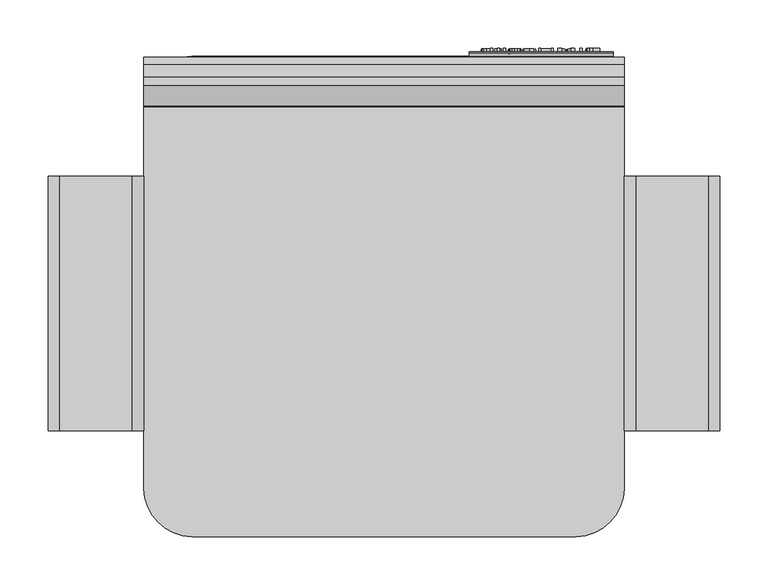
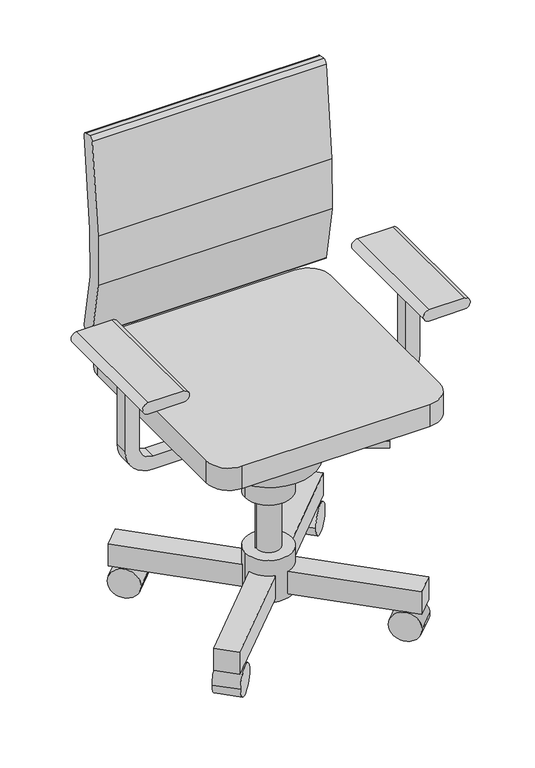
"""IFC4 building model written with IfcOpenShell, lengths in millimetres: furniture geometry, BIMHealth-Chair_Consultant-LOD2A-v1 : BIMHealth-Chair_Consultant-LOD2A-v1."""

from ifc_helpers import new_model, si_unit, point, frame, frame_2d, origin, place, context, project, spatial, polyline, circle_curve, trimmed, segment, composite_curve, outline, extrude, source, transform, mapped, element, save


def furniture_fb8e9059(model_context):
    return source(origin(), model_context, "Body", "SweptSolid", [
        extrude(outline(polyline([(436.6618506, -375.0897778), (242.5, -262.9903811), (257.5, -237.0096189), (451.6618506, -349.1090157), (436.6618506, -375.0897778)])), frame((0.0, 0.0, 380.0), z_axis=(0.0, 0.0, 1.0), x_axis=(1.0, 0.0, 0.0)), (0.0, 0.0, 1.0), 15.0),
        extrude(outline(composite_curve([segment(trimmed(circle_curve(frame_2d((250.0, -250.0)), 50.0), [point((200.0, -250.0))], [point((300.0, -250.0))], False, "CARTESIAN"), True, "CONTINUOUS"), segment(trimmed(circle_curve(frame_2d((250.0, -250.0)), 50.0), [point((300.0, -250.0))], [point((200.0, -250.0))], False, "CARTESIAN"), True, "CONTINUOUS")], self_intersect=False)), frame((0.0, 0.0, 275.0), z_axis=(0.0, 0.0, 1.0), x_axis=(1.0, 0.0, 0.0)), (0.0, 0.0, 1.0), 75.0),
        extrude(outline(polyline([(-7.4567308, 0.0), (0.0, 0.0), (3.15625, -0.3389424), (5.2980769, -1.3389424), (6.7331731, -3.2235577), (7.3125, -5.8701923), (6.4639423, -8.9326923), (4.0384615, -10.7692308), (6.0360577, -12.5120193), (6.6971154, -14.8125), (5.9110577, -17.3317308), (3.7379808, -19.1129808), (0.0576923, -19.6923077), (-7.4567308, -19.6923077), (-7.4567308, 0.0)]), holes=[polyline([(-4.9951923, -11.6923077), (-4.9951923, -17.2307693), (-0.8413461, -17.2307693), (2.3221154, -16.9735577), (3.7403846, -16.0240385), (4.2355769, -14.4182693), (3.7043269, -12.8149039), (2.125, -11.9038462), (-0.5, -11.6923077), (-4.9951923, -11.6923077)]), polyline([(-4.9951923, -2.4615385), (-4.9951923, -9.2307692), (-0.1875, -9.2307692), (2.8533654, -8.9014423), (4.3798077, -7.7596154), (4.8509615, -5.8461538), (3.4254808, -3.09375), (1.8798077, -2.5576923), (0.0528846, -2.4615385), (-4.9951923, -2.4615385)])]), frame((467.2449891, 6.6775588, 981.5556118), z_axis=(0.0, -0.9945218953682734, 0.10452846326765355), x_axis=(-1.0, 0.0, 0.0)), (0.0, 0.0, 1.0), 5.0),
        extrude(outline(polyline([(0.0, -2.4615385), (0.0, 0.0), (4.9999999, 0.0), (4.9999999, -2.4615385), (0.0, -2.4615385)])), frame((456.2401814, 6.6775588, 981.5556118), z_axis=(0.0, 0.10452846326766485, 0.9945218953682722), x_axis=(0.0, -0.9945218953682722, 0.10452846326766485)), (0.0, 0.0, 1.0), 19.6923077),
        extrude(outline(polyline([(-2.4615384, 0.0), (0.0, 0.0), (0.0, -17.2307693), (4.9519231, 0.0), (8.2836539, 0.0), (13.2307693, -17.2307693), (13.2307693, 0.0), (15.6923077, 0.0), (15.6923077, -19.6923077), (11.4567308, -19.6923077), (7.4951924, -6.0528846), (6.6153847, -2.9134616), (5.798077, -5.8125), (1.7596154, -19.6923077), (-2.4615384, -19.6923077), (-2.4615384, 0.0)])), frame((446.3940276, 6.6775588, 981.5556118), z_axis=(0.0, -0.9945218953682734, 0.10452846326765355), x_axis=(-1.0, 0.0, 0.0)), (0.0, 0.0, 1.0), 5.0),
        extrude(outline(polyline([(-2.4615385, 0.0), (0.0, 0.0), (0.0, -9.2307692), (10.4615385, -9.2307692), (10.4615385, 0.0), (12.9230769, 0.0), (12.9230769, -19.6923077), (10.4615385, -19.6923077), (10.4615385, -11.6923077), (0.0, -11.6923077), (0.0, -19.6923077), (-2.4615385, -19.6923077), (-2.4615385, 0.0)])), frame((423.9324891, 6.6775588, 981.5556118), z_axis=(0.0, -0.9945218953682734, 0.10452846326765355), x_axis=(-1.0, 0.0, 0.0)), (0.0, 0.0, 1.0), 5.0),
        extrude(outline(polyline([(-2.2814057, 0.0), (0.0, 0.0), (2.0480384, 1.3765779), (3.4549295, 4.4273492), (2.1420986, 7.6681357), (-6.0377959, 0.1696205), (-8.7913973, 5.4335929), (-6.8870124, 10.2843245), (-1.9992252, 12.4452574), (3.3875048, 9.8883578), (6.003415, 4.7275283), (3.8503389, -0.3006806), (0.1146777, -2.5362264), (-3.7386703, -1.9482945), (-2.2814057, 0.0)]), holes=[polyline([(0.3732318, 9.3799423), (-2.3418651, 10.1174346), (-5.1114589, 8.5794276), (-6.5357355, 5.4484708), (-5.6180913, 3.1889085), (0.3732318, 9.3799423)])]), frame((398.4709506, 6.9564689, 984.209264), z_axis=(0.0, -0.9945218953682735, 0.10452846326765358), x_axis=(0.6954214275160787, -0.07511437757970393, -0.7146655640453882)), (0.0, 0.0, 1.0), 5.0),
        extrude(outline(polyline([(-1.946017, 1e-07), (0.0, 0.0), (0.7784068, -2.3352204), (-1.3401673, -2.524501), (-5.4366851, -3.7582453), (-8.3420277, -4.7266929), (-10.4233537, -5.2937744), (-12.2469845, -5.1060142), (-13.8220421, -3.854786), (-15.1804531, -1.1630492), (-15.7376525, 2.0744846), (-15.0793515, 4.554136), (-13.135615, 6.3245553), (-12.0653055, 4.0866358), (-13.2838467, 2.4287205), (-12.9455742, -0.0836179), (-11.4100451, -2.4401228), (-8.9562393, -2.3215375), (-9.5035566, 1.9961878), (-9.8258656, 4.1337659), (-9.6046583, 6.024291), (-8.6552148, 7.6457185), (-6.9570109, 8.7084262), (-3.7301194, 8.4689749), (-1.4914397, 5.4473273), (-1.1181997, 2.7920784), (-1.946017, 1e-07)]), holes=[polyline([(-6.2880676, -1.4397485), (-4.2766765, -0.3511952), (-3.4321355, 1.6229478), (-3.6609446, 4.1717741), (-7.447316, 4.5845425), (-7.1561736, 2.4492449), (-6.2880676, -1.4397485)])]), frame((382.0863352, 6.6775588, 981.5556118), z_axis=(0.0, -0.9945218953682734, 0.10452846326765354), x_axis=(-0.3162277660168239, -0.09916440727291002, -0.9434863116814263)), (0.0, 0.0, 1.0), 5.0),
        extrude(outline(polyline([(0.0, -2.4615384), (0.0, 0.0), (4.9999999, 0.0), (4.9999999, -2.4615384), (0.0, -2.4615384)])), frame((376.855566, 6.6775588, 981.5556118), z_axis=(0.0, 0.10452846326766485, 0.9945218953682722), x_axis=(0.0, -0.9945218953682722, 0.10452846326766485)), (0.0, 0.0, 1.0), 19.6923077),
        extrude(outline(polyline([(-9.0385156, 0.0), (0.0, 0.0), (-0.3351862, 2.4386107), (2.1034244, 2.7737969), (2.4386106, 0.3351862), (7.3539351, 1.0107959), (6.2554851, -1.6248676), (2.7737968, -2.1034245), (3.0251865, -3.9323824), (0.5865759, -4.2675686), (0.3351862, -2.4386107), (-7.6236388, -3.5325485), (-11.6337058, -2.744332), (-12.3194027, -0.7566892), (-12.336755, 1.0995843), (-9.0385156, 0.0)])), frame((367.9324891, 7.9319004, 993.4898746), z_axis=(0.0, -0.9945218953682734, 0.10452846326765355), x_axis=(0.1361693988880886, 0.10355484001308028, 0.985258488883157)), (0.0, 0.0, 1.0), 5.0),
        extrude(outline(polyline([(-2.4615385, 0.0), (0.0, 0.0), (0.0, -7.6826923), (0.4014423, -10.2740385), (1.7475961, -11.7596154), (3.7644231, -12.3076923), (5.9855769, -11.4951924), (6.7692308, -8.8990385), (6.7692308, 0.0), (9.2307692, 0.0), (9.2307692, -9.1538461), (8.7259615, -12.3894231), (7.0480769, -14.1370193), (4.2836538, -14.7692308), (0.0, -12.4519231), (0.0, -19.6923077), (-2.4615385, -19.6923077), (-2.4615385, 0.0)])), frame((360.5478737, 6.6775588, 981.5556118), z_axis=(0.0, -0.9945218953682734, 0.10452846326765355), x_axis=(-1.0, 0.0, 0.0)), (0.0, 0.0, 1.0), 5.0),
        extrude(outline(composite_curve([segment(polyline([(650.0, 512.5), (650.0, 587.5)]), True, "CONTINUOUS"), segment(trimmed(circle_curve(frame_2d((662.5, 587.5)), 12.5), [point((650.0, 587.5))], [point((675.0, 587.5))], False, "CARTESIAN"), True, "CONTINUOUS"), segment(polyline([(675.0, 587.5), (675.0, 512.5)]), True, "CONTINUOUS"), segment(trimmed(circle_curve(frame_2d((662.5, 512.5)), 12.5), [point((675.0, 512.5))], [point((650.0, 512.5))], False, "CARTESIAN"), True, "CONTINUOUS")], self_intersect=False)), frame((0.0, -390.0, 0.0), z_axis=(0.0, 1.0, 0.0), x_axis=(0.0, 0.0, 1.0)), (0.0, 0.0, 1.0), 265.0),
        extrude(outline(composite_curve([segment(trimmed(circle_curve(frame_2d((480.0, 505.0)), 60.0), [point((420.0, 505.0))], [point((480.0, 565.0))], False, "CARTESIAN"), True, "CONTINUOUS"), segment(polyline([(480.0, 565.0), (650.0, 565.0), (650.0, 535.0), (480.0, 535.0)]), True, "CONTINUOUS"), segment(trimmed(circle_curve(frame_2d((480.0, 505.0)), 30.0), [point((480.0, 535.0))], [point((450.0, 505.0))], True, "CARTESIAN"), True, "CONTINUOUS"), segment(polyline([(450.0, 505.0), (450.0, 250.0), (420.0, 250.0), (420.0, 505.0)]), True, "CONTINUOUS")], self_intersect=False)), frame((0.0, -265.0, 0.0), z_axis=(0.0, 1.0, 0.0), x_axis=(0.0, 0.0, 1.0)), (0.0, 0.0, 1.0), 30.0),
        extrude(outline(composite_curve([segment(trimmed(circle_curve(frame_2d((662.5, -12.5)), 12.5), [point((650.0, -12.5))], [point((675.0, -12.5))], False, "CARTESIAN"), True, "CONTINUOUS"), segment(polyline([(675.0, -12.5), (675.0, -87.5)]), True, "CONTINUOUS"), segment(trimmed(circle_curve(frame_2d((662.5, -87.5)), 12.5), [point((675.0, -87.5))], [point((650.0, -87.5))], False, "CARTESIAN"), True, "CONTINUOUS"), segment(polyline([(650.0, -87.5), (650.0, -12.5)]), True, "CONTINUOUS")], self_intersect=False)), frame((0.0, -390.0, 0.0), z_axis=(0.0, 1.0, 0.0), x_axis=(0.0, 0.0, 1.0)), (0.0, 0.0, 1.0), 265.0),
        extrude(outline(composite_curve([segment(polyline([(420.0, -5.0), (420.0, 250.0), (450.0, 250.0), (450.0, -5.0)]), True, "CONTINUOUS"), segment(trimmed(circle_curve(frame_2d((480.0, -5.0)), 30.0), [point((450.0, -5.0))], [point((480.0, -35.0))], True, "CARTESIAN"), True, "CONTINUOUS"), segment(polyline([(480.0, -35.0), (650.0, -35.0), (650.0, -65.0), (480.0, -65.0)]), True, "CONTINUOUS"), segment(trimmed(circle_curve(frame_2d((480.0, -5.0)), 60.0), [point((480.0, -65.0))], [point((420.0, -5.0))], False, "CARTESIAN"), True, "CONTINUOUS")], self_intersect=False)), frame((0.0, -265.0, 0.0), z_axis=(0.0, 1.0, 0.0), x_axis=(0.0, 0.0, 1.0)), (0.0, 0.0, 1.0), 30.0),
        extrude(outline(composite_curve([segment(trimmed(circle_curve(frame_2d((0.0, -32.4999999)), 32.5), [point((0.0, -65.0))], [point((0.0, 0.0))], False, "CARTESIAN"), True, "CONTINUOUS"), segment(trimmed(circle_curve(frame_2d((0.0, -32.4999999)), 32.5), [point((0.0, 0.0))], [point((0.0, -65.0))], False, "CARTESIAN"), True, "CONTINUOUS")], self_intersect=False)), frame((398.2021241, -436.8054211, 32.4786713), z_axis=(0.7071067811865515, 0.7071067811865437, 0.0), x_axis=(0.0, 0.0, -1.0)), (0.0, 0.0, 1.0), 54.4803427),
        extrude(outline(composite_curve([segment(trimmed(circle_curve(frame_2d((0.0, -32.4999999)), 32.5), [point((0.0, -65.0))], [point((0.0, 0.0))], False, "CARTESIAN"), True, "CONTINUOUS"), segment(trimmed(circle_curve(frame_2d((0.0, -32.4999999)), 32.5), [point((0.0, 0.0))], [point((0.0, -65.0))], False, "CARTESIAN"), True, "CONTINUOUS")], self_intersect=False)), frame((101.7978759, -436.8054211, 32.4786713), z_axis=(-0.7071067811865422, 0.7071067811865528, 0.0), x_axis=(0.0, 0.0, 1.0)), (0.0, 0.0, 1.0), 54.4803427),
        extrude(outline(composite_curve([segment(trimmed(circle_curve(frame_2d((0.0, -32.5)), 32.5), [point((0.0, -65.0))], [point((0.0, 0.0))], False, "CARTESIAN"), True, "CONTINUOUS"), segment(trimmed(circle_curve(frame_2d((0.0, -32.5)), 32.5), [point((0.0, 0.0))], [point((0.0, -65.0))], False, "CARTESIAN"), True, "CONTINUOUS")], self_intersect=False)), frame((436.7255438, -101.7179987, 32.4786713), z_axis=(-0.7071067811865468, 0.7071067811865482, 0.0), x_axis=(0.0, 0.0, -1.0)), (0.0, 0.0, 1.0), 54.4803427),
        extrude(outline(composite_curve([segment(trimmed(circle_curve(frame_2d((0.0, -32.5)), 32.5), [point((0.0, -65.0))], [point((0.0, 0.0))], False, "CARTESIAN"), True, "CONTINUOUS"), segment(trimmed(circle_curve(frame_2d((0.0, -32.5)), 32.5), [point((0.0, 0.0))], [point((0.0, -65.0))], False, "CARTESIAN"), True, "CONTINUOUS")], self_intersect=False)), frame((63.2744562, -101.7179987, 32.4786713), z_axis=(0.7071067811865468, 0.7071067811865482, 0.0), x_axis=(0.0, 0.0, 1.0)), (0.0, 0.0, 1.0), 54.4803427),
        extrude(outline(composite_curve([segment(trimmed(circle_curve(frame_2d((250.0, -250.0)), 50.0), [point((200.0, -250.0))], [point((300.0, -250.0))], False, "CARTESIAN"), True, "CONTINUOUS"), segment(trimmed(circle_curve(frame_2d((250.0, -250.0)), 50.0), [point((300.0, -250.0))], [point((200.0, -250.0))], False, "CARTESIAN"), True, "CONTINUOUS")], self_intersect=False)), frame((0.0, 0.0, 55.0), z_axis=(0.0, 0.0, 1.0), x_axis=(1.0, 0.0, 0.0)), (0.0, 0.0, 1.0), 95.0),
        extrude(outline(polyline([(250.0, -285.3553391), (55.5456352, -479.8097039), (20.1902961, -444.4543648), (214.6446609, -250.0), (20.1902961, -55.5456352), (55.5456352, -20.1902961), (250.0, -214.6446609), (444.4543648, -20.1902961), (479.8097039, -55.5456352), (285.3553391, -250.0), (479.8097039, -444.4543648), (444.4543648, -479.8097039), (250.0, -285.3553391)])), frame((0.0, 0.0, 65.0), z_axis=(0.0, 0.0, 1.0), x_axis=(1.0, 0.0, 0.0)), (0.0, 0.0, 1.0), 50.0),
        extrude(outline(polyline([(400.0, -100.0), (400.0, -400.0), (100.0, -400.0), (100.0, -100.0), (400.0, -100.0)])), frame((0.0, 0.0, 450.0), z_axis=(0.0, 0.0, 1.0), x_axis=(1.0, 0.0, 0.0)), (0.0, 0.0, 1.0), 50.0),
        extrude(outline(composite_curve([segment(trimmed(circle_curve(frame_2d((250.0, -250.0)), 25.0), [point((225.0, -250.0))], [point((275.0, -250.0))], False, "CARTESIAN"), True, "CONTINUOUS"), segment(trimmed(circle_curve(frame_2d((250.0, -250.0)), 25.0), [point((275.0, -250.0))], [point((225.0, -250.0))], False, "CARTESIAN"), True, "CONTINUOUS")], self_intersect=False)), frame((0.0, 0.0, 115.0), z_axis=(0.0, 0.0, 1.0), x_axis=(1.0, 0.0, 0.0)), (0.0, 0.0, 1.0), 235.0),
        extrude(outline(composite_curve([segment(trimmed(circle_curve(frame_2d((502.3406567, 757.5879599)), 557.3933698), [point((-52.4676053, 703.9674314))], [point((-51.9645135, 816.1810227))], False, "CARTESIAN"), True, "CONTINUOUS"), segment(polyline([(-51.9645135, 816.1810227), (-30.794243, 1016.457127)]), True, "CONTINUOUS"), segment(trimmed(circle_curve(frame_2d((-22.119351, 1015.5401438)), 8.7232225), [point((-30.794243, 1016.457127))], [point((-21.1544777, 1024.2098399))], False, "CARTESIAN"), True, "CONTINUOUS"), segment(polyline([(-21.1544777, 1024.2098399), (-8.621704, 1022.8843245)]), True, "CONTINUOUS"), segment(trimmed(circle_curve(frame_2d((-9.5391891, 1014.2094855)), 8.7232225), [point((-8.621704, 1022.8843245))], [point((-0.864739, 1013.2883308))], False, "CARTESIAN"), True, "CONTINUOUS"), segment(polyline([(-0.864739, 1013.2883308), (-22.1040053, 813.2796378)]), True, "CONTINUOUS"), segment(trimmed(circle_curve(frame_2d((502.3406567, 757.5879599)), 527.3933698), [point((-22.1040053, 813.2796378))], [point((-22.7167957, 708.0053203))], True, "CARTESIAN"), True, "CONTINUOUS"), segment(polyline([(-22.7167957, 708.0053203), (-1.0511759, 585.1334841)]), True, "CONTINUOUS"), segment(trimmed(circle_curve(frame_2d((-5.5481353, 583.966199)), 4.6459873), [point((-1.0511759, 585.1334841))], [point((-5.1069737, 579.3412044))], False, "CARTESIAN"), True, "CONTINUOUS"), segment(polyline([(-5.1069737, 579.3412044), (-24.8031288, 575.8682409)]), True, "CONTINUOUS"), segment(trimmed(circle_curve(frame_2d((-25.9704139, 580.3652003)), 4.6459873), [point((-24.8031288, 575.8682409))], [point((-30.5954084, 579.9240388))], False, "CARTESIAN"), True, "CONTINUOUS"), segment(polyline([(-30.5954084, 579.9240388), (-52.4676053, 703.9674314)]), True, "CONTINUOUS")], self_intersect=False)), frame((0.0, 0.0, 0.0), z_axis=(1.0, 0.0, 0.0), x_axis=(0.0, 1.0, 0.0)), (0.0, 0.0, 1.0), 500.0),
        extrude(outline(composite_curve([segment(trimmed(circle_curve(frame_2d((250.0, -250.0)), 100.0), [point((150.0, -250.0))], [point((350.0, -250.0))], False, "CARTESIAN"), True, "CONTINUOUS"), segment(trimmed(circle_curve(frame_2d((250.0, -250.0)), 100.0), [point((350.0, -250.0))], [point((150.0, -250.0))], False, "CARTESIAN"), True, "CONTINUOUS")], self_intersect=False)), frame((0.0, 0.0, 350.0), z_axis=(0.0, 0.0, 1.0), x_axis=(1.0, 0.0, 0.0)), (0.0, 0.0, 1.0), 150.0),
        extrude(outline(composite_curve([segment(trimmed(circle_curve(frame_2d((50.0, -450.0)), 50.0), [point((50.0, -500.0))], [point((0.0, -450.0))], False, "CARTESIAN"), True, "CONTINUOUS"), segment(polyline([(0.0, -450.0), (0.0, -50.0)]), True, "CONTINUOUS"), segment(trimmed(circle_curve(frame_2d((50.0, -50.0)), 50.0), [point((0.0, -50.0))], [point((50.0, 0.0))], False, "CARTESIAN"), True, "CONTINUOUS"), segment(polyline([(50.0, 0.0), (450.0, 0.0)]), True, "CONTINUOUS"), segment(trimmed(circle_curve(frame_2d((450.0, -50.0)), 50.0), [point((450.0, 0.0))], [point((500.0, -50.0))], False, "CARTESIAN"), True, "CONTINUOUS"), segment(polyline([(500.0, -50.0), (500.0, -450.0)]), True, "CONTINUOUS"), segment(trimmed(circle_curve(frame_2d((450.0, -450.0)), 50.0), [point((500.0, -450.0))], [point((450.0, -500.0))], False, "CARTESIAN"), True, "CONTINUOUS"), segment(polyline([(450.0, -500.0), (50.0, -500.0)]), True, "CONTINUOUS")], self_intersect=False)), frame((0.0, 0.0, 500.0), z_axis=(0.0, 0.0, 1.0), x_axis=(1.0, 0.0, 0.0)), (0.0, 0.0, 1.0), 50.0),
        extrude(outline(polyline([(0.0, -150.0), (0.0, 0.0), (0.7492295, 0.0), (0.7492295, -150.0), (0.0, -150.0)])), frame((338.7166083, 0.0, 973.0244517), z_axis=(0.0, 0.10452846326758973, 0.9945218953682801), x_axis=(0.0, 0.9945218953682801, -0.10452846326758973)), (0.0, 0.0, 1.0), 37.5),
    ])


if __name__ == "__main__":
    model = new_model("IFC4")
    model_context = context("Model", 3, world=origin())
    ifc_project = project(units=[si_unit("LENGTHUNIT", "METRE", prefix="MILLI")], contexts=[model_context])
    site = spatial("IfcSite", under=ifc_project)
    building = spatial("IfcBuilding", under=site)
    placement = place(None, origin())
    furniture_shape = furniture_fb8e9059(model_context)
    element("IfcFurniture", 1, ObjectType="BIMHealth-Chair_Consultant-LOD2A-v1 : BIMHealth-Chair_Consultant-LOD2A-v1", at=placement, inside=building, context=model_context, shape_type="MappedRepresentation", body=[
        mapped(furniture_shape, transform((0.0, 0.0, 0.0), x_axis=(1.0, 0.0, 0.0), y_axis=(0.0, 1.0, 0.0), z_axis=(0.0, 0.0, 1.0))),
    ])
    save(model, "model.ifc")
